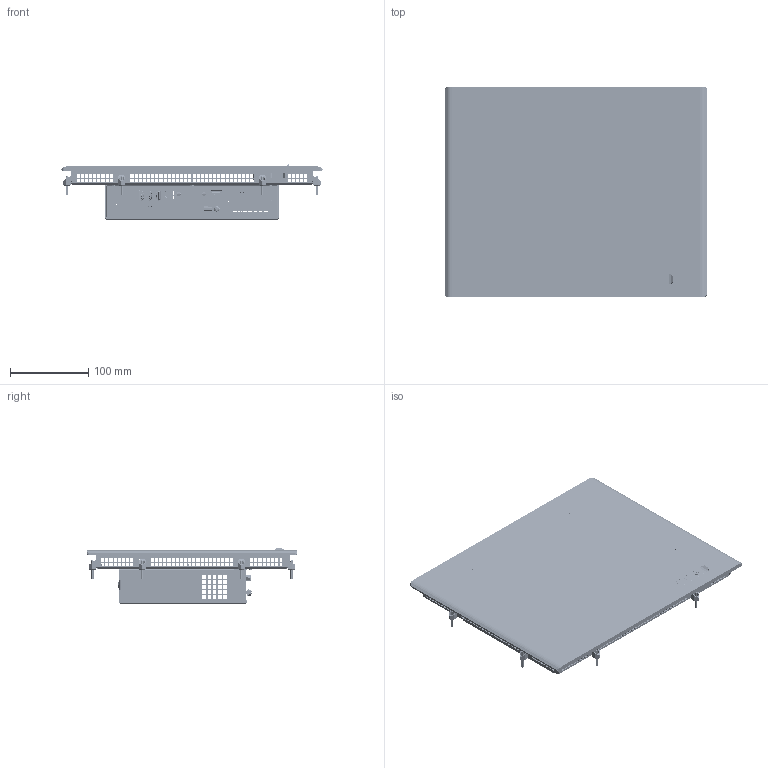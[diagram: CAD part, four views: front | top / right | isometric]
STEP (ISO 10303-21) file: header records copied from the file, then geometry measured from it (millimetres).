
FILE_DESCRIPTION (( 'STEP AP214' ), '1' );
FILE_NAME ('MH200_121_TF_DEPOPOLATA.STEP', '2021-10-22T11:44:32', ( '' ), ( '' ), 'SwSTEP 2.0', 'SolidWorks 2021', '' );
FILE_SCHEMA (( 'AUTOMOTIVE_DESIGN' ));
Length unit declared in the file: millimetre
Products named in the file (39): 69111020; 54900001; 21614000; 65720062; 21402041; foot4049_1270000; 62013046; 59303069_Default<A macchina>; 7397_213_DEPOPOLATA; 62920005; 23330027; MH200_121_TF_DEPOPOLATA; 69111006; D09201902_12-24; 58755004; 14300032; 61820001; 56600685; 21409042; GRUPPO FRONTALE 121 MH TF ALLEN BRADLEY; 56506010_2^D09201902; 21405042; 58342020; 21410039; 20900019; 69111025; 57342375_Default<A macchina>; GRUPPO VITE TERRA M4; 56600684; 7397_369_DEPOPOLATA; 48000032; 51703013_Default<A macchina>; 54900004; 56572011; 62920011; 56636563_Default<A macchina>; 62920001; 55455078; 59703008
Assembly tree (66 placements, depth 5):
  MH200_121_TF_DEPOPOLATA
    GRUPPO FRONTALE 121 MH TF ALLEN BRADLEY
      56600685
        56600684
          56636563_Default<A macchina>
          55455078
          57342375_Default<A macchina>
        48000032
      58342020
      58755004
    59303069_Default<A macchina>
    D09201902_12-24
      7397_369_DEPOPOLATA
        23330027  x4
        21405042
        21409042
        foot4049_1270000
        21410039  x3
      7397_213_DEPOPOLATA
        21402041
      14300032
      59703008
      21614000  x2
      69111020  x8
      GRUPPO VITE TERRA M4
        65720062
        62920011
        62920001
        62920005
        20900019
      69111025
      56572011
      51703013_Default<A macchina>
      56506010_2^D09201902  x2
    69111006  x8
    54900004  x8
      54900001
      61820001
      62013046
Bounding box: 335 x 270 x 71.4 mm (x, y, z)
Topology: 213 solids, 241 shells, 15598 faces, 43019 edges, 28060 vertices
Faces by surface type: plane 11173, cylinder 3267, cone 666, bspline 388, torus 104
Entity records: 375654 total; most frequent: CARTESIAN_POINT 78396, ORIENTED_EDGE 61269, DIRECTION 55131, EDGE_CURVE 30854, VECTOR 24829, LINE 24829, VERTEX_POINT 20209, AXIS2_PLACEMENT_3D 15151
